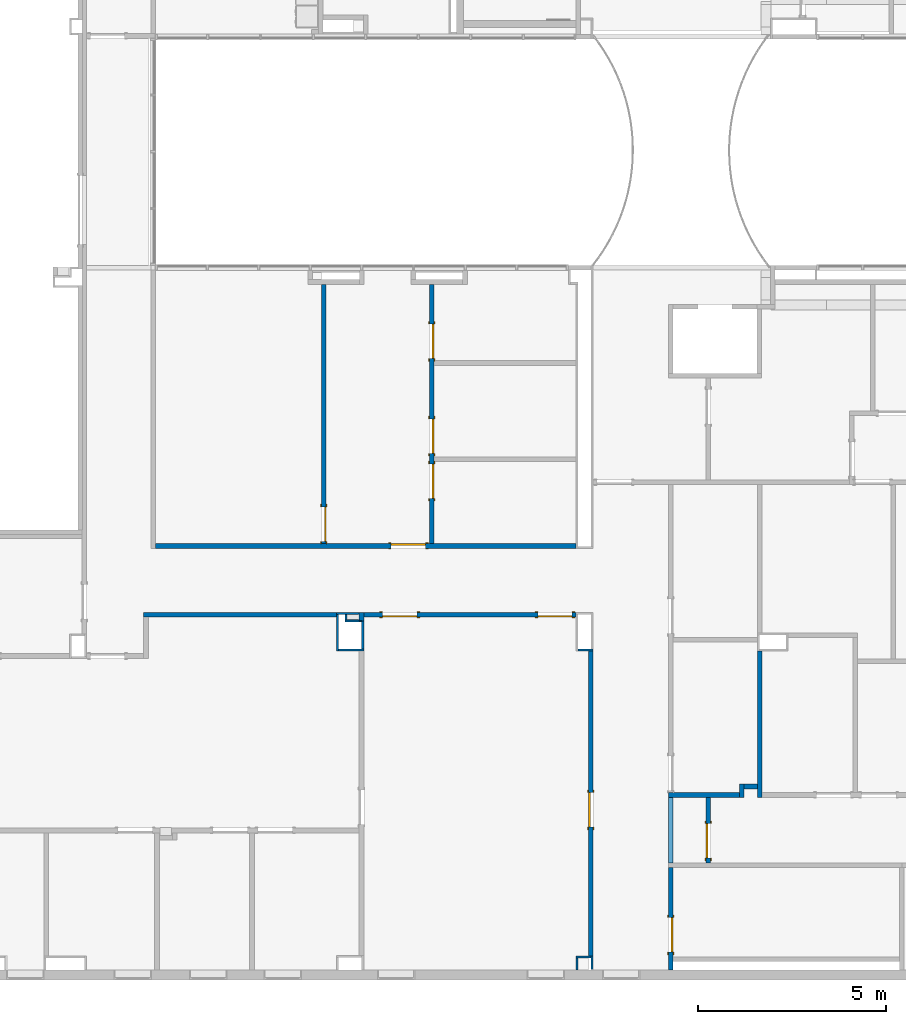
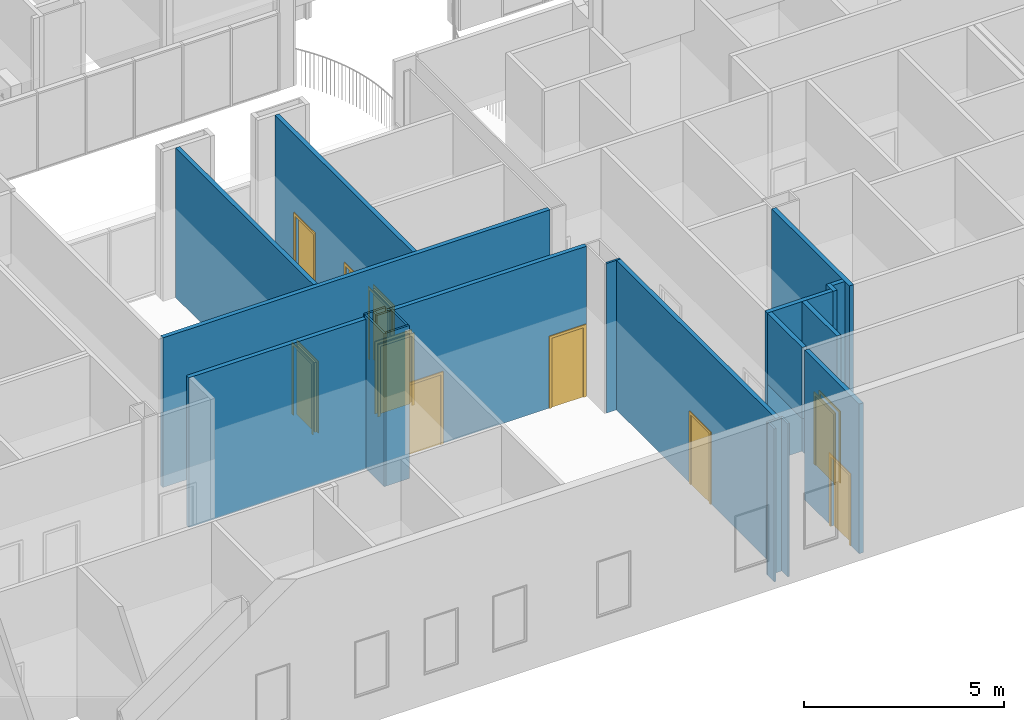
# One storey, part 9 of 47: 24 walls, 10 doors, 10 openings.
"""IFC2X3 building model written with IfcOpenShell, lengths in metres."""

from ifc_helpers import new_model, entity, si_unit, converted_unit, frame, frame_2d, origin, origin_2d_with_axis, place, context, project, spatial, polyline, rectangle, outline, extrude, source, transform, mapped, material, layer, layer_set, layer_usage, type_object, type_shapes, element, fill, save


model = new_model("IFC2X3")

# Units and contexts
model_context = context("Model", 3, precision=1e-09, world=origin())
plan_context = context("Plan", 3, precision=1e-09, world=origin())
ifc_project = project(units=[si_unit("LENGTHUNIT", "METRE"), si_unit("AREAUNIT", "SQUARE_METRE"), si_unit("VOLUMEUNIT", "CUBIC_METRE"), converted_unit("PLANEANGLEUNIT", "DEGREE", entity("IfcRatioMeasure", 0.01745329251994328), si_unit("PLANEANGLEUNIT", "RADIAN"), dimensions=[0, 0, 0, 0, 0, 0, 0]), si_unit("TIMEUNIT", "SECOND")], contexts=[model_context, plan_context])

# Site, building, storey
site_placement = place(None, origin())
site = spatial("IfcSite", under=ifc_project, at=site_placement, Name="Default", CompositionType="ELEMENT")
building_placement = place(site_placement, origin())
building = spatial("IfcBuilding", under=site, at=building_placement, CompositionType="ELEMENT")
storey_placement = place(building_placement, frame((0.0, 0.0, 4.570000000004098)))
storey = spatial("IfcBuildingStorey", under=building, at=storey_placement, Name="Second Floor", CompositionType="ELEMENT", Elevation=4.570000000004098)

# Wall, opening, door
ifc_material_1 = material(Name="Plasterboard")
ifc_layer_1 = layer(ifc_material_1, 0.016)
ifc_material_2 = material(Name="Metal - Stud Layer")
ifc_layer_2 = layer(ifc_material_2, 0.092)
ifc_layer_3 = layer(ifc_material_1, 0.016)
ifc_layer_set_1 = layer_set([ifc_layer_1, ifc_layer_2, ifc_layer_3], Name="Basic Wall:Interior - Partition (92mm Stud)")
ifc_layer_usage_1 = layer_usage(ifc_layer_set_1, "AXIS2", "NEGATIVE", 0.062)
wall_1_placement = place(storey_placement, frame((-27.0030000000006, 21.27843871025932, 0.0), z_axis=(0.0, 0.0, 1.0), x_axis=(0.0, 1.0, 0.0)))
wall_1 = element("IfcWallStandardCase", 1, at=wall_1_placement, inside=storey, material=ifc_layer_usage_1, Name="Basic Wall:Interior - Partition (92mm Stud)", ObjectType="Basic Wall:Interior - Partition (92mm Stud)", context=model_context, shape_type="SweptSolid", body=[
    extrude(rectangle(XDim=6.90600000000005, YDim=0.1239999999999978, at=frame_2d((3.453000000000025, 0.0), x_axis=(-1.0, 0.0))), origin(), (0.0, 0.0, 1.0), 4.577999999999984),
])
opening_1_placement = place(wall_1_placement, frame((0.974999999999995, 0.06200000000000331, 0.0)))
opening_1 = element("IfcOpeningElement", 2, at=opening_1_placement, cuts=wall_1, Name="M_Single-Flush:0915 x 2134mm:0915 x 2134mm:1", ObjectType="Opening", context=model_context, shape_type="SweptSolid", body=[
    extrude(rectangle(XDim=0.9149999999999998, YDim=2.134, at=frame_2d((1.067, 0.4575), x_axis=(0.0, 1.0))), frame((0.0, 0.0, 0.0), z_axis=(0.0, -1.0, 0.0), x_axis=(0.0, 0.0, 1.0)), (0.0, 0.0, 1.0), 0.124),
])
door_style_1 = type_object("IfcDoorStyle", Name="0915 x 2134mm", ConstructionType="NOTDEFINED", OperationType="SINGLE_SWING_RIGHT", ParameterTakesPrecedence=False, Sizeable=False)
shared_shape_1 = source(origin(), model_context, "Body", "SweptSolid", [
    extrude(outline(polyline([(-0.5335, -1.123999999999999), (0.5334999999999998, -1.123999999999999), (0.5334999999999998, 1.086), (0.4574999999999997, 1.086), (0.4574999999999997, -1.048000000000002), (-0.4574999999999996, -1.048000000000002), (-0.4574999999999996, 1.086), (-0.5335, 1.086), (-0.5335, -1.123999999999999)])), frame((0.4575000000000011, 0.1239999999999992, 1.086), z_axis=(0.0, 1.0, 0.0), x_axis=(1.0, 0.0, 0.0)), (0.0, 0.0, 1.0), 0.02499999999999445),
    extrude(outline(polyline([(-1.123999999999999, -0.5334999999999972), (1.085999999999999, -0.5334999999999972), (1.085999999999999, -0.4575000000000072), (-1.048, -0.4575000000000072), (-1.048, 0.4575000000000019), (1.085999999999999, 0.4575000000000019), (1.085999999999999, 0.5335000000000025), (-1.123999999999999, 0.5335000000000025), (-1.123999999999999, -0.5334999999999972)])), frame((0.4575000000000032, -0.02500000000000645, 1.085999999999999), z_axis=(0.0, 1.0, 0.0), x_axis=(0.0, 0.0, -1.0)), (0.0, 0.0, 1.0), 0.02500000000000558),
    extrude(rectangle(XDim=0.051, YDim=0.9149999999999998, at=origin_2d_with_axis()), frame((0.4575000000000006, 0.09849999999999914, 0.0), z_axis=(0.0, 0.0, 1.0), x_axis=(0.0, 1.0, 0.0)), (0.0, 0.0, 1.0), 2.133999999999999),
])
type_shapes(door_style_1, [shared_shape_1])
door_1_placement = place(opening_1_placement, frame((0.0, 0.0, 0.0), z_axis=(0.0, 0.0, 1.0), x_axis=(-1.0, 0.0, 0.0)))
door_1 = element("IfcDoor", 3, at=door_1_placement, inside=storey, type_object=door_style_1, Name="M_Single-Flush:0915 x 2134mm:0915 x 2134mm", ObjectType="0915 x 2134mm", OverallHeight=2.134, OverallWidth=0.9149999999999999, context=model_context, shape_type="MappedRepresentation", body=[
    mapped(shared_shape_1, transform((0.0, 0.0, 0.0), scale=1.0)),
])
fill(opening_1, door_1)

# Wall, openings, doors
ifc_layer_usage_2 = layer_usage(ifc_layer_set_1, "AXIS2", "NEGATIVE", 0.062)
wall_2_placement = place(storey_placement, frame((-24.1330000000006, 21.27843871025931, 0.0), z_axis=(0.0, 0.0, 1.0), x_axis=(0.0, 1.0, 0.0)))
wall_2 = element("IfcWallStandardCase", 4, at=wall_2_placement, inside=storey, material=ifc_layer_usage_2, Name="Basic Wall:Interior - Partition (92mm Stud)", ObjectType="Basic Wall:Interior - Partition (92mm Stud)", context=model_context, shape_type="SweptSolid", body=[
    extrude(rectangle(XDim=6.906000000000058, YDim=0.1239999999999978, at=frame_2d((3.453000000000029, 0.0), x_axis=(-1.0, 0.0))), origin(), (0.0, 0.0, 1.0), 4.577999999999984),
])
opening_2_placement = place(wall_2_placement, frame((2.121999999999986, 0.0619999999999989, 0.0)))
opening_2 = element("IfcOpeningElement", 5, at=opening_2_placement, cuts=wall_2, Name="M_Single-Flush:0915 x 2134mm:0915 x 2134mm:1", ObjectType="Opening", context=model_context, shape_type="SweptSolid", body=[
    extrude(rectangle(XDim=0.9149999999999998, YDim=2.134, at=frame_2d((1.067, 0.4575000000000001), x_axis=(0.0, -1.0))), frame((0.0, 0.0, 0.0), z_axis=(0.0, -1.0, 0.0), x_axis=(0.0, 0.0, 1.0)), (0.0, 0.0, 1.0), 0.124),
])
opening_3_placement = place(wall_2_placement, frame((3.320999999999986, 0.0619999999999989, 0.0)))
opening_3 = element("IfcOpeningElement", 6, at=opening_3_placement, cuts=wall_2, Name="M_Single-Flush:0915 x 2134mm:0915 x 2134mm:1", ObjectType="Opening", context=model_context, shape_type="SweptSolid", body=[
    extrude(rectangle(XDim=0.9149999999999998, YDim=2.134, at=frame_2d((1.067, 0.4575), x_axis=(0.0, 1.0))), frame((0.0, 0.0, 0.0), z_axis=(0.0, -1.0, 0.0), x_axis=(0.0, 0.0, 1.0)), (0.0, 0.0, 1.0), 0.124),
])
opening_4_placement = place(wall_2_placement, frame((5.844999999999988, 0.06199999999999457, 0.0)))
opening_4 = element("IfcOpeningElement", 7, at=opening_4_placement, cuts=wall_2, Name="M_Single-Flush:0915 x 2134mm:0915 x 2134mm:1", ObjectType="Opening", context=model_context, shape_type="SweptSolid", body=[
    extrude(rectangle(XDim=0.9149999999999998, YDim=2.134, at=frame_2d((1.067, 0.4575), x_axis=(0.0, 1.0))), frame((0.0, 0.0, 0.0), z_axis=(0.0, -1.0, 0.0), x_axis=(0.0, 0.0, 1.0)), (0.0, 0.0, 1.0), 0.124),
])
door_2_placement = place(opening_3_placement, frame((0.0, 0.0, 0.0), z_axis=(0.0, 0.0, 1.0), x_axis=(-1.0, 0.0, 0.0)))
door_2 = element("IfcDoor", 8, at=door_2_placement, inside=storey, type_object=door_style_1, Name="M_Single-Flush:0915 x 2134mm:0915 x 2134mm", ObjectType="0915 x 2134mm", OverallHeight=2.134, OverallWidth=0.9149999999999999, context=model_context, shape_type="MappedRepresentation", body=[
    mapped(shared_shape_1, transform((0.0, 0.0, 0.0), scale=1.0)),
])
fill(opening_3, door_2)
door_3_placement = place(opening_4_placement, frame((0.0, 0.0, 0.0), z_axis=(0.0, 0.0, 1.0), x_axis=(-1.0, 0.0, 0.0)))
door_3 = element("IfcDoor", 9, at=door_3_placement, inside=storey, type_object=door_style_1, Name="M_Single-Flush:0915 x 2134mm:0915 x 2134mm", ObjectType="0915 x 2134mm", OverallHeight=2.134, OverallWidth=0.9149999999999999, context=model_context, shape_type="MappedRepresentation", body=[
    mapped(shared_shape_1, transform((0.0, 0.0, 0.0), scale=1.0)),
])
fill(opening_4, door_3)
door_style_2 = type_object("IfcDoorStyle", Name="0915 x 2134mm", ConstructionType="NOTDEFINED", OperationType="SINGLE_SWING_LEFT", ParameterTakesPrecedence=False, Sizeable=False)
shared_shape_2 = source(origin(), model_context, "Body", "SweptSolid", [
    extrude(outline(polyline([(-0.5335, -1.123999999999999), (0.5334999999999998, -1.123999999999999), (0.5334999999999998, 1.086), (0.4574999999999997, 1.086), (0.4574999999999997, -1.048000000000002), (-0.4574999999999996, -1.048000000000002), (-0.4574999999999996, 1.086), (-0.5335, 1.086), (-0.5335, -1.123999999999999)])), frame((0.4575000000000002, 0.1489999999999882, 1.086), z_axis=(0.0, -1.0, 0.0), x_axis=(-1.0, 0.0, 0.0)), (0.0, 0.0, 1.0), 0.02499999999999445),
    extrude(outline(polyline([(-1.123999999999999, -0.5334999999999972), (1.085999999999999, -0.5334999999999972), (1.085999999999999, -0.4575000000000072), (-1.048, -0.4575000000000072), (-1.048, 0.4575000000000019), (1.085999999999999, 0.4575000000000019), (1.085999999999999, 0.5335000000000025), (-1.123999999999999, 0.5335000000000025), (-1.123999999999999, -0.5334999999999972)])), frame((0.4574999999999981, 0.0, 1.085999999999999), z_axis=(0.0, -1.0, 0.0), x_axis=(0.0, 0.0, -1.0)), (0.0, 0.0, 1.0), 0.02500000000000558),
    extrude(rectangle(XDim=0.9149999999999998, YDim=0.051, at=origin_2d_with_axis()), frame((0.4575000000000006, 0.09849999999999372, 0.0)), (0.0, 0.0, 1.0), 2.133999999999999),
])
type_shapes(door_style_2, [shared_shape_2])
door_4_placement = place(opening_2_placement, frame((0.0, 0.0, 0.0), z_axis=(0.0, 0.0, 1.0), x_axis=(-1.0, 0.0, 0.0)))
door_4 = element("IfcDoor", 10, at=door_4_placement, inside=storey, type_object=door_style_2, Name="M_Single-Flush:0915 x 2134mm:0915 x 2134mm", ObjectType="0915 x 2134mm", OverallHeight=2.134, OverallWidth=0.9149999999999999, context=model_context, shape_type="MappedRepresentation", body=[
    mapped(shared_shape_2, transform((0.0, 0.0, 0.0), scale=1.0)),
])
fill(opening_2, door_4)

# Wall, opening, door
ifc_layer_usage_3 = layer_usage(ifc_layer_set_1, "AXIS2", "NEGATIVE", 0.062)
wall_3_placement = place(storey_placement, frame((-20.29000000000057, 21.2164387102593, 0.0), z_axis=(0.0, 0.0, 1.0), x_axis=(-1.0, 0.0, 0.0)))
wall_3 = element("IfcWallStandardCase", 11, at=wall_3_placement, inside=storey, material=ifc_layer_usage_3, Name="Basic Wall:Interior - Partition (92mm Stud)", ObjectType="Basic Wall:Interior - Partition (92mm Stud)", context=model_context, shape_type="SweptSolid", body=[
    extrude(rectangle(XDim=11.19600000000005, YDim=0.1239999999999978, at=frame_2d((5.598000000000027, 0.0), x_axis=(-1.0, 0.0))), origin(), (0.0, 0.0, 1.0), 4.577999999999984),
])
opening_5_placement = place(wall_3_placement, frame((4.920000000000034, 0.06199999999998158, 0.0)))
opening_5 = element("IfcOpeningElement", 12, at=opening_5_placement, cuts=wall_3, Name="M_Single-Flush:0915 x 2134mm:0915 x 2134mm:1", ObjectType="Opening", context=model_context, shape_type="SweptSolid", body=[
    extrude(rectangle(XDim=0.9149999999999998, YDim=2.134, at=frame_2d((1.067, 0.4575), x_axis=(0.0, 1.0))), frame((0.0, 0.0, 0.0), z_axis=(0.0, -1.0, 0.0), x_axis=(0.0, 0.0, 1.0)), (0.0, 0.0, 1.0), 0.124),
])
door_5_placement = place(opening_5_placement, frame((0.0, 0.0, 0.0), z_axis=(0.0, 0.0, 1.0), x_axis=(-1.0, 0.0, 0.0)))
door_5 = element("IfcDoor", 13, at=door_5_placement, inside=storey, type_object=door_style_1, Name="M_Single-Flush:0915 x 2134mm:0915 x 2134mm", ObjectType="0915 x 2134mm", OverallHeight=2.134, OverallWidth=0.9149999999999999, context=model_context, shape_type="MappedRepresentation", body=[
    mapped(shared_shape_1, transform((0.0, 0.0, 0.0), scale=1.0)),
])
fill(opening_5, door_5)

ifc_material_3 = material(Name="Type-X Plasterboard")
ifc_layer_4 = layer(ifc_material_3, 0.016)
ifc_layer_5 = layer(ifc_material_2, 0.092)
ifc_layer_6 = layer(ifc_material_3, 0.016)
ifc_layer_set_2 = layer_set([ifc_layer_4, ifc_layer_5, ifc_layer_6], Name="Basic Wall:Interior - Rated 1-HR (92mm Stud)")
ifc_layer_usage_4 = layer_usage(ifc_layer_set_2, "AXIS2", "NEGATIVE", 0.06200000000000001)
wall_4_placement = place(storey_placement, frame((-17.76800000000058, 9.926999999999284, 0.0), z_axis=(0.0, 0.0, 1.0), x_axis=(0.0, 1.0, 0.0)))
wall_4 = element("IfcWallStandardCase", 14, at=wall_4_placement, inside=storey, material=ifc_layer_usage_4, Name="Basic Wall:Interior - Rated 1-HR (92mm Stud)", ObjectType="Basic Wall:Interior - Rated 1-HR (92mm Stud)", context=model_context, shape_type="SweptSolid", body=[
    extrude(rectangle(XDim=2.728999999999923, YDim=0.1240000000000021, at=frame_2d((1.364499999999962, 0.0), x_axis=(-1.0, 0.0))), origin(), (0.0, 0.0, 1.0), 4.577999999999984),
])
opening_6_placement = place(wall_4_placement, frame((1.392438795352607, 0.06200000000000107, 0.0)))
opening_6 = element("IfcOpeningElement", 15, at=opening_6_placement, cuts=wall_4, Name="M_Single-Flush:0915 x 2134mm Rated:0915 x 2134mm Rated:1", ObjectType="Opening", context=model_context, shape_type="SweptSolid", body=[
    extrude(rectangle(XDim=0.9149999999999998, YDim=2.134, at=frame_2d((1.067, 0.4575), x_axis=(0.0, 1.0))), frame((0.0, 0.0, 0.0), z_axis=(0.0, -1.0, 0.0), x_axis=(0.0, 0.0, 1.0)), (0.0, 0.0, 1.0), 0.124),
])
door_style_3 = type_object("IfcDoorStyle", Name="0915 x 2134mm Rated", ConstructionType="NOTDEFINED", OperationType="SINGLE_SWING_RIGHT", ParameterTakesPrecedence=False, Sizeable=False)
shared_shape_3 = source(origin(), model_context, "Body", "SweptSolid", [
    extrude(outline(polyline([(-0.5335, -1.123999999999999), (0.5334999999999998, -1.123999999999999), (0.5334999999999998, 1.086), (0.4574999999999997, 1.086), (0.4574999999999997, -1.048000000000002), (-0.4574999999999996, -1.048000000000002), (-0.4574999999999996, 1.086), (-0.5335, 1.086), (-0.5335, -1.123999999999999)])), frame((0.4575000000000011, 0.1240000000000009, 1.086), z_axis=(0.0, 1.0, 0.0), x_axis=(1.0, 0.0, 0.0)), (0.0, 0.0, 1.0), 0.02499999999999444),
    extrude(outline(polyline([(-1.123999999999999, -0.5334999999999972), (1.085999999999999, -0.5334999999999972), (1.085999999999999, -0.4575000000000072), (-1.048, -0.4575000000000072), (-1.048, 0.4575000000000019), (1.085999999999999, 0.4575000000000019), (1.085999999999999, 0.5335000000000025), (-1.123999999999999, 0.5335000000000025), (-1.123999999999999, -0.5334999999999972)])), frame((0.4575000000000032, -0.02500000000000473, 1.085999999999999), z_axis=(0.0, 1.0, 0.0), x_axis=(0.0, 0.0, -1.0)), (0.0, 0.0, 1.0), 0.02500000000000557),
    extrude(rectangle(XDim=0.051, YDim=0.9149999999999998, at=origin_2d_with_axis()), frame((0.4575000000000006, 0.09850000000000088, 0.0), z_axis=(0.0, 0.0, 1.0), x_axis=(0.0, 1.0, 0.0)), (0.0, 0.0, 1.0), 2.133999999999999),
])
type_shapes(door_style_3, [shared_shape_3])
door_6_placement = place(opening_6_placement, frame((0.0, 0.0, 0.0), z_axis=(0.0, 0.0, 1.0), x_axis=(-1.0, 0.0, 0.0)))
door_6 = element("IfcDoor", 16, at=door_6_placement, inside=storey, type_object=door_style_3, Name="M_Single-Flush:0915 x 2134mm Rated:0915 x 2134mm Rated", ObjectType="0915 x 2134mm Rated", OverallHeight=2.134, OverallWidth=0.9149999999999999, context=model_context, shape_type="MappedRepresentation", body=[
    mapped(shared_shape_3, transform((0.0, 0.0, 0.0), scale=1.0)),
])
fill(opening_6, door_6)

ifc_layer_usage_5 = layer_usage(ifc_layer_set_1, "AXIS2", "NEGATIVE", 0.062)
wall_5_placement = place(storey_placement, frame((-16.76800000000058, 12.7799999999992, 0.0), z_axis=(0.0, 0.0, 1.0), x_axis=(0.0, 1.0, 0.0)))
wall_5 = element("IfcWallStandardCase", 17, at=wall_5_placement, inside=storey, material=ifc_layer_usage_5, Name="Basic Wall:Interior - Partition (92mm Stud)", ObjectType="Basic Wall:Interior - Partition (92mm Stud)", context=model_context, shape_type="SweptSolid", body=[
    extrude(rectangle(XDim=1.744438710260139, YDim=0.1240000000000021, at=frame_2d((0.8722193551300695, 0.0), x_axis=(-1.0, 0.0))), origin(), (0.0, 0.0, 1.0), 4.577999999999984),
])
opening_7_placement = place(wall_5_placement, frame((0.1284387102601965, -0.06199999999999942, 0.0)))
opening_7 = element("IfcOpeningElement", 18, at=opening_7_placement, cuts=wall_5, Name="M_Single-Flush:0915 x 2134mm:0915 x 2134mm:1", ObjectType="Opening", context=model_context, shape_type="SweptSolid", body=[
    extrude(rectangle(XDim=0.9149999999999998, YDim=2.134, at=frame_2d((1.067, 0.4575000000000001), x_axis=(0.0, -1.0))), frame((0.0, 0.0, 0.0), z_axis=(0.0, 1.0, 0.0), x_axis=(0.0, 0.0, 1.0)), (0.0, 0.0, 1.0), 0.124),
])
door_7_placement = place(opening_7_placement, origin())
door_7 = element("IfcDoor", 19, at=door_7_placement, inside=storey, type_object=door_style_2, Name="M_Single-Flush:0915 x 2134mm:0915 x 2134mm", ObjectType="0915 x 2134mm", OverallHeight=2.134, OverallWidth=0.9149999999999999, context=model_context, shape_type="MappedRepresentation", body=[
    mapped(shared_shape_2, transform((0.0, 0.0, 0.0), scale=1.0)),
])
fill(opening_7, door_7)

# Walls
ifc_layer_usage_6 = layer_usage(ifc_layer_set_1, "AXIS2", "NEGATIVE", 0.062)
wall_6_placement = place(storey_placement, frame((-15.93400000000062, 14.58643871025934, 0.0), z_axis=(0.0, 0.0, 1.0), x_axis=(-1.0, 0.0, 0.0)))
element("IfcWallStandardCase", 20, at=wall_6_placement, inside=storey, material=ifc_layer_usage_6, Name="Basic Wall:Interior - Partition (92mm Stud)", ObjectType="Basic Wall:Interior - Partition (92mm Stud)", context=model_context, shape_type="SweptSolid", body=[
    extrude(rectangle(XDim=1.895999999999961, YDim=0.1240000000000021, at=frame_2d((0.9479999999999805, 0.0), x_axis=(-1.0, 0.0))), origin(), (0.0, 0.0, 1.0), 4.577999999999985),
])
ifc_layer_usage_7 = layer_usage(ifc_layer_set_1, "AXIS2", "NEGATIVE", 0.062)
wall_7_placement = place(storey_placement, frame((-15.39800000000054, 14.52443871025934, 0.0), z_axis=(0.0, 0.0, 1.0), x_axis=(0.0, 1.0, 0.0)))
element("IfcWallStandardCase", 21, at=wall_7_placement, inside=storey, material=ifc_layer_usage_7, Name="Basic Wall:Interior - Partition (92mm Stud)", ObjectType="Basic Wall:Interior - Partition (92mm Stud)", context=model_context, shape_type="SweptSolid", body=[
    extrude(rectangle(XDim=3.890000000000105, YDim=0.1240000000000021, at=frame_2d((1.945000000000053, 0.0), x_axis=(-1.0, 0.0))), origin(), (0.0, 0.0, 1.0), 4.577999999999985),
])
ifc_layer_usage_8 = layer_usage(ifc_layer_set_1, "AXIS2", "NEGATIVE", 0.062)
wall_8_placement = place(storey_placement, frame((-15.46000000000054, 14.81143871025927, 0.0), z_axis=(0.0, 0.0, 1.0), x_axis=(-1.0, 0.0, 0.0)))
element("IfcWallStandardCase", 22, at=wall_8_placement, inside=storey, material=ifc_layer_usage_8, Name="Basic Wall:Interior - Partition (92mm Stud)", ObjectType="Basic Wall:Interior - Partition (92mm Stud)", context=model_context, shape_type="SweptSolid", body=[
    extrude(rectangle(XDim=0.3500000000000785, YDim=0.1240000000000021, at=frame_2d((0.1750000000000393, 0.0), x_axis=(-1.0, 0.0))), origin(), (0.0, 0.0, 1.0), 4.577999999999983),
])
ifc_layer_usage_9 = layer_usage(ifc_layer_set_1, "AXIS2", "NEGATIVE", 0.062)
wall_9_placement = place(storey_placement, frame((-15.87200000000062, 14.87343871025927, 0.0), z_axis=(0.0, 0.0, 1.0), x_axis=(0.0, -1.0, 0.0)))
element("IfcWallStandardCase", 23, at=wall_9_placement, inside=storey, material=ifc_layer_usage_9, Name="Basic Wall:Interior - Partition (92mm Stud)", ObjectType="Basic Wall:Interior - Partition (92mm Stud)", context=model_context, shape_type="SweptSolid", body=[
    extrude(rectangle(XDim=0.3489999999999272, YDim=0.1240000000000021, at=frame_2d((0.1744999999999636, 0.0), x_axis=(-1.0, 0.0))), origin(), (0.0, 0.0, 1.0), 4.577999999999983),
])

# Wall, opening, door
ifc_layer_usage_10 = layer_usage(ifc_layer_set_1, "AXIS2", "NEGATIVE", 0.062)
wall_10_placement = place(storey_placement, frame((-19.89200000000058, 18.41443871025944, 0.0), z_axis=(0.0, 0.0, 1.0), x_axis=(0.0, -1.0, 0.0)))
wall_10 = element("IfcWallStandardCase", 24, at=wall_10_placement, inside=storey, material=ifc_layer_usage_10, Name="Basic Wall:Interior - Partition (92mm Stud)", ObjectType="Basic Wall:Interior - Partition (92mm Stud)", context=model_context, shape_type="SweptSolid", body=[
    extrude(rectangle(XDim=8.109999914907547, YDim=0.1239999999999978, at=frame_2d((4.054999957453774, 0.0), x_axis=(-1.0, 0.0))), origin(), (0.0, 0.0, 1.0), 4.577999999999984),
])
opening_8_placement = place(wall_10_placement, frame((4.681000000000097, 0.06199999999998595, 0.0)))
opening_8 = element("IfcOpeningElement", 25, at=opening_8_placement, cuts=wall_10, Name="M_Single-Flush:0915 x 2134mm:0915 x 2134mm:1", ObjectType="Opening", context=model_context, shape_type="SweptSolid", body=[
    extrude(rectangle(XDim=0.9149999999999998, YDim=2.134, at=frame_2d((1.067, 0.4575), x_axis=(0.0, 1.0))), frame((0.0, 0.0, 0.0), z_axis=(0.0, -1.0, 0.0), x_axis=(0.0, 0.0, 1.0)), (0.0, 0.0, 1.0), 0.124),
])
door_8_placement = place(opening_8_placement, frame((0.0, 0.0, 0.0), z_axis=(0.0, 0.0, 1.0), x_axis=(-1.0, 0.0, 0.0)))
door_8 = element("IfcDoor", 26, at=door_8_placement, inside=storey, type_object=door_style_1, Name="M_Single-Flush:0915 x 2134mm:0915 x 2134mm", ObjectType="0915 x 2134mm", OverallHeight=2.134, OverallWidth=0.9149999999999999, context=model_context, shape_type="MappedRepresentation", body=[
    mapped(shared_shape_1, transform((0.0, 0.0, 0.0), scale=1.0)),
])
fill(opening_8, door_8)

# Walls
ifc_layer_usage_11 = layer_usage(ifc_layer_set_1, "AXIS2", "NEGATIVE", 0.062)
wall_11_placement = place(storey_placement, frame((-31.80000000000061, 19.38243871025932, 0.0)))
element("IfcWallStandardCase", 27, at=wall_11_placement, inside=storey, material=ifc_layer_usage_11, Name="Basic Wall:Interior - Partition (92mm Stud)", ObjectType="Basic Wall:Interior - Partition (92mm Stud)", context=model_context, shape_type="SweptSolid", body=[
    extrude(rectangle(XDim=5.130000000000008, YDim=0.1240000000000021, at=frame_2d((2.565000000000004, 0.0), x_axis=(-1.0, 0.0))), origin(), (0.0, 0.0, 1.0), 4.577999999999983),
])
ifc_layer_usage_12 = layer_usage(ifc_layer_set_1, "AXIS2", "NEGATIVE", 0.062)
wall_12_placement = place(storey_placement, frame((-17.76800000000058, 12.77999999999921, 2.399999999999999), z_axis=(0.0, 0.0, 1.0), x_axis=(0.0, 1.0, 0.0)))
element("IfcWallStandardCase", 28, at=wall_12_placement, inside=storey, material=ifc_layer_usage_12, Name="Basic Wall:Interior - Partition (92mm Stud)", ObjectType="Basic Wall:Interior - Partition (92mm Stud)", context=model_context, shape_type="SweptSolid", body=[
    extrude(rectangle(XDim=1.744438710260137, YDim=0.1240000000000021, at=frame_2d((0.8722193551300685, 0.0), x_axis=(-1.0, 0.0))), origin(), (0.0, 0.0, 1.0), 2.177999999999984),
])
ifc_layer_7 = layer(ifc_material_2, 0.038)
ifc_layer_8 = layer(ifc_material_1, 0.016)
ifc_layer_set_3 = layer_set([ifc_layer_7, ifc_layer_8], Name="Basic Wall:Interior - Furring (38 mm Stud)")
ifc_layer_usage_13 = layer_usage(ifc_layer_set_3, "AXIS2", "NEGATIVE", 0.027)
wall_13_placement = place(storey_placement, frame((-19.85700000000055, 9.944438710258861, 0.0), z_axis=(0.0, 0.0, 1.0), x_axis=(0.0, 1.0, 0.0)))
element("IfcWallStandardCase", 29, at=wall_13_placement, inside=storey, material=ifc_layer_usage_13, Name="Basic Wall:Interior - Furring (38 mm Stud)", ObjectType="Basic Wall:Interior - Furring (38 mm Stud)", context=model_context, shape_type="SweptSolid", body=[
    extrude(rectangle(XDim=0.3600000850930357, YDim=0.05399999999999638, at=frame_2d((0.1800000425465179, 0.0), x_axis=(-1.0, 0.0))), origin(), (0.0, 0.0, 1.0), 4.679999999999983),
])
ifc_layer_usage_14 = layer_usage(ifc_layer_set_3, "AXIS2", "NEGATIVE", 0.027)
wall_14_placement = place(storey_placement, frame((-19.88400000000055, 10.2774387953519, 0.0), z_axis=(0.0, 0.0, 1.0), x_axis=(-1.0, 0.0, 0.0)))
element("IfcWallStandardCase", 30, at=wall_14_placement, inside=storey, material=ifc_layer_usage_14, Name="Basic Wall:Interior - Furring (38 mm Stud)", ObjectType="Basic Wall:Interior - Furring (38 mm Stud)", context=model_context, shape_type="SweptSolid", body=[
    extrude(rectangle(XDim=0.406000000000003, YDim=0.05400000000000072, at=frame_2d((0.2030000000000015, 0.0), x_axis=(-1.0, 0.0))), origin(), (0.0, 0.0, 1.0), 4.679999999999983),
])
ifc_layer_usage_15 = layer_usage(ifc_layer_set_3, "AXIS2", "NEGATIVE", 0.027)
wall_15_placement = place(storey_placement, frame((-20.26300000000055, 10.2504387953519, 0.0), z_axis=(0.0, 0.0, 1.0), x_axis=(0.0, -1.0, 0.0)))
element("IfcWallStandardCase", 31, at=wall_15_placement, inside=storey, material=ifc_layer_usage_15, Name="Basic Wall:Interior - Furring (38 mm Stud)", ObjectType="Basic Wall:Interior - Furring (38 mm Stud)", context=model_context, shape_type="SweptSolid", body=[
    extrude(rectangle(XDim=0.3234387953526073, YDim=0.05399999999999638, at=frame_2d((0.1617193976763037, 0.0), x_axis=(-1.0, 0.0))), origin(), (0.0, 0.0, 1.0), 4.679999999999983),
])

# Wall, openings, doors
ifc_layer_usage_16 = layer_usage(ifc_layer_set_1, "AXIS2", "NEGATIVE", 0.062)
wall_16_placement = place(storey_placement, frame((-25.94000000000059, 19.38243871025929, 0.0)))
wall_16 = element("IfcWallStandardCase", 32, at=wall_16_placement, inside=storey, material=ifc_layer_usage_16, Name="Basic Wall:Interior - Partition (92mm Stud)", ObjectType="Basic Wall:Interior - Partition (92mm Stud)", context=model_context, shape_type="SweptSolid", body=[
    extrude(rectangle(XDim=5.650000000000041, YDim=0.1240000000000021, at=frame_2d((2.825000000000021, 0.0), x_axis=(-1.0, 0.0))), origin(), (0.0, 0.0, 1.0), 4.577999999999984),
])
opening_9_placement = place(wall_16_placement, frame((5.550000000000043, 0.06199999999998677, 0.0)))
opening_9 = element("IfcOpeningElement", 33, at=opening_9_placement, cuts=wall_16, Name=":1", ObjectType="Opening", context=model_context, shape_type="SweptSolid", body=[
    extrude(rectangle(XDim=0.9149999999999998, YDim=2.134, at=frame_2d((1.067, 0.4574999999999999), x_axis=(0.0, -1.0))), frame((0.0, 0.0, 0.0), z_axis=(0.0, -1.0, 0.0), x_axis=(0.0, 0.0, 1.0)), (0.0, 0.0, 1.0), 0.124),
])
opening_10_placement = place(wall_16_placement, frame((1.414999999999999, 0.06199999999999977, 0.0)))
opening_10 = element("IfcOpeningElement", 34, at=opening_10_placement, cuts=wall_16, Name=":1", ObjectType="Opening", context=model_context, shape_type="SweptSolid", body=[
    extrude(rectangle(XDim=0.9149999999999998, YDim=2.134, at=frame_2d((1.067, 0.4575), x_axis=(0.0, 1.0))), frame((0.0, 0.0, 0.0), z_axis=(0.0, -1.0, 0.0), x_axis=(0.0, 0.0, 1.0)), (0.0, 0.0, 1.0), 0.124),
])
door_9_placement = place(opening_10_placement, frame((0.0, 0.0, 0.0), z_axis=(0.0, 0.0, 1.0), x_axis=(-1.0, 0.0, 0.0)))
door_9 = element("IfcDoor", 35, at=door_9_placement, inside=storey, type_object=door_style_1, Name="M_Single-Flush:0915 x 2134mm:0915 x 2134mm", ObjectType="0915 x 2134mm", OverallHeight=2.134, OverallWidth=0.9149999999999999, context=model_context, shape_type="MappedRepresentation", body=[
    mapped(shared_shape_1, transform((0.0, 0.0, 0.0), scale=1.0)),
])
fill(opening_10, door_9)
door_10_placement = place(opening_9_placement, frame((0.0, 0.0, 0.0), z_axis=(0.0, 0.0, 1.0), x_axis=(-1.0, 0.0, 0.0)))
door_10 = element("IfcDoor", 36, at=door_10_placement, inside=storey, type_object=door_style_2, Name="M_Single-Flush:0915 x 2134mm:0915 x 2134mm", ObjectType="0915 x 2134mm", OverallHeight=2.134, OverallWidth=0.9149999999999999, context=model_context, shape_type="MappedRepresentation", body=[
    mapped(shared_shape_2, transform((0.0, 0.0, 0.0), scale=1.0)),
])
fill(opening_9, door_10)

# Walls
ifc_layer_usage_17 = layer_usage(ifc_layer_set_3, "AXIS2", "NEGATIVE", 0.027)
wall_17_placement = place(storey_placement, frame((-26.06400000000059, 19.41743871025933, 0.0), z_axis=(0.0, 0.0, 1.0), x_axis=(-1.0, 0.0, 0.0)))
element("IfcWallStandardCase", 37, at=wall_17_placement, inside=storey, material=ifc_layer_usage_17, Name="Basic Wall:Interior - Furring (38 mm Stud)", ObjectType="Basic Wall:Interior - Furring (38 mm Stud)", context=model_context, shape_type="SweptSolid", body=[
    extrude(rectangle(XDim=0.6060000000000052, YDim=0.05400000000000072, at=frame_2d((0.3030000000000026, 0.0), x_axis=(-1.0, 0.0))), origin(), (0.0, 0.0, 1.0), 4.679999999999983),
])
ifc_layer_usage_18 = layer_usage(ifc_layer_set_3, "AXIS2", "NEGATIVE", 0.027)
wall_18_placement = place(storey_placement, frame((-26.6430000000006, 19.3904387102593, 0.0), z_axis=(0.0, 0.0, 1.0), x_axis=(0.0, -1.0, 0.0)))
element("IfcWallStandardCase", 38, at=wall_18_placement, inside=storey, material=ifc_layer_usage_18, Name="Basic Wall:Interior - Furring (38 mm Stud)", ObjectType="Basic Wall:Interior - Furring (38 mm Stud)", context=model_context, shape_type="SweptSolid", body=[
    extrude(rectangle(XDim=0.9759999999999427, YDim=0.05399999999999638, at=frame_2d((0.4879999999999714, 0.0), x_axis=(-1.0, 0.0))), origin(), (0.0, 0.0, 1.0), 4.679999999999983),
])
ifc_layer_usage_19 = layer_usage(ifc_layer_set_3, "AXIS2", "NEGATIVE", 0.027)
wall_19_placement = place(storey_placement, frame((-26.6160000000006, 18.44143871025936, 0.0)))
element("IfcWallStandardCase", 39, at=wall_19_placement, inside=storey, material=ifc_layer_usage_19, Name="Basic Wall:Interior - Furring (38 mm Stud)", ObjectType="Basic Wall:Interior - Furring (38 mm Stud)", context=model_context, shape_type="SweptSolid", body=[
    extrude(rectangle(XDim=0.6760000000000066, YDim=0.05400000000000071, at=frame_2d((0.3380000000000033, 0.0), x_axis=(-1.0, 0.0))), origin(), (0.0, 0.0, 1.0), 4.679999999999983),
])
ifc_layer_usage_20 = layer_usage(ifc_layer_set_3, "AXIS2", "NEGATIVE", 0.027)
wall_20_placement = place(storey_placement, frame((-25.9670000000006, 18.46843871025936, 0.0), z_axis=(0.0, 0.0, 1.0), x_axis=(0.0, 1.0, 0.0)))
element("IfcWallStandardCase", 40, at=wall_20_placement, inside=storey, material=ifc_layer_usage_20, Name="Basic Wall:Interior - Furring (38 mm Stud)", ObjectType="Basic Wall:Interior - Furring (38 mm Stud)", context=model_context, shape_type="SweptSolid", body=[
    extrude(rectangle(XDim=0.781, YDim=0.05399999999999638, at=frame_2d((0.3905, 0.0), x_axis=(-1.0, 0.0))), origin(), (0.0, 0.0, 1.0), 4.679999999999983),
])
ifc_layer_usage_21 = layer_usage(ifc_layer_set_3, "AXIS2", "NEGATIVE", 0.027)
wall_21_placement = place(storey_placement, frame((-25.99400000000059, 19.22243871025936, 0.0), z_axis=(0.0, 0.0, 1.0), x_axis=(-1.0, 0.0, 0.0)))
element("IfcWallStandardCase", 41, at=wall_21_placement, inside=storey, material=ifc_layer_usage_21, Name="Basic Wall:Interior - Furring (38 mm Stud)", ObjectType="Basic Wall:Interior - Furring (38 mm Stud)", context=model_context, shape_type="SweptSolid", body=[
    extrude(outline(polyline([(0.4400000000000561, -0.02700000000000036), (0.4400000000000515, 0.02700000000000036), (0.0, 0.02700000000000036), (0.0, 0.0), (0.07000000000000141, 0.0), (0.07000000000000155, -0.02700000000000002), (0.3860000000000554, -0.02700000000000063), (0.4400000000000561, -0.02700000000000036)])), origin(), (0.0, 0.0, 1.0), 4.679999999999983),
])
ifc_layer_usage_22 = layer_usage(ifc_layer_set_3, "AXIS2", "NEGATIVE", 0.027)
wall_22_placement = place(storey_placement, frame((-26.40700000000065, 19.24943871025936, 0.0), z_axis=(0.0, 0.0, 1.0), x_axis=(0.0, 1.0, 0.0)))
element("IfcWallStandardCase", 42, at=wall_22_placement, inside=storey, material=ifc_layer_usage_22, Name="Basic Wall:Interior - Furring (38 mm Stud)", ObjectType="Basic Wall:Interior - Furring (38 mm Stud)", context=model_context, shape_type="SweptSolid", body=[
    extrude(rectangle(XDim=0.1409999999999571, YDim=0.05399999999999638, at=frame_2d((0.07049999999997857, 0.0), x_axis=(-1.0, 0.0))), origin(), (0.0, 0.0, 1.0), 4.679999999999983),
])
ifc_layer_usage_23 = layer_usage(ifc_layer_set_1, "AXIS2", "POSITIVE", -0.062)
wall_23_placement = place(storey_placement, frame((-26.0020000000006, 19.22243871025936, 0.0), z_axis=(0.0, 0.0, 1.0), x_axis=(0.0, 1.0, 0.0)))
element("IfcWallStandardCase", 43, at=wall_23_placement, inside=storey, material=ifc_layer_usage_23, Name="Basic Wall:Interior - Partition (92mm Stud)", ObjectType="Basic Wall:Interior - Partition (92mm Stud)", context=model_context, shape_type="SweptSolid", body=[
    extrude(rectangle(XDim=0.2219999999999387, YDim=0.1239999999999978, at=frame_2d((0.1109999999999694, 0.0), x_axis=(-1.0, 0.0))), origin(), (0.0, 0.0, 1.0), 4.577999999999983),
])
ifc_layer_usage_24 = layer_usage(ifc_layer_set_3, "AXIS2", "POSITIVE", -0.027)
wall_24_placement = place(storey_placement, frame((-19.83000000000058, 18.44143871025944, 0.0), z_axis=(0.0, 0.0, 1.0), x_axis=(-1.0, 0.0, 0.0)))
element("IfcWallStandardCase", 44, at=wall_24_placement, inside=storey, material=ifc_layer_usage_24, Name="Basic Wall:Interior - Furring (38 mm Stud)", ObjectType="Basic Wall:Interior - Furring (38 mm Stud)", context=model_context, shape_type="SweptSolid", body=[
    extrude(rectangle(XDim=0.4059999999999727, YDim=0.05400000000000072, at=frame_2d((0.2029999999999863, 0.0), x_axis=(-1.0, 0.0))), origin(), (0.0, 0.0, 1.0), 4.577999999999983),
])

save(model, "model.ifc")
